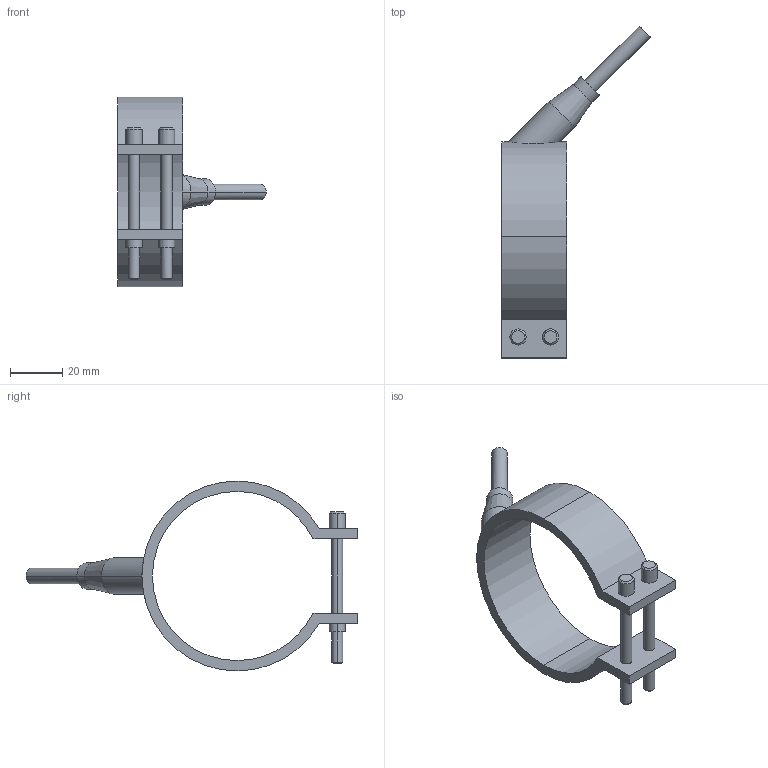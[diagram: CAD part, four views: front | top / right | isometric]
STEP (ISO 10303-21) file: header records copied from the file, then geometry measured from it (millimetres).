
FILE_DESCRIPTION(('CATIA V5 STEP Exchange'),'2;1');
FILE_NAME('C:\Users\Utente\Desktop\IO LAVORO\3D X SITO CF\X SITO\PLASTICA\RF1\29065025.stp','2021-03-27T09:51:19+00:00',('none'),('none'),'CATIA Version 5 Release 20 GA (IN-10)','CATIA V5 STEP AP203','none');
FILE_SCHEMA(('CONFIG_CONTROL_DESIGN'));
Length unit declared in the file: millimetre
Products named in the file (1): 29065025
Bounding box: 57.05 x 127.55 x 73 mm (x, y, z)
Volume: 28077 mm3; surface area: 15737 mm2
Topology: 1 solids, 1 shells, 54 faces, 126 edges, 82 vertices
Faces by surface type: cylinder 28, plane 16, cone 10
Entity records: 1746 total; most frequent: CARTESIAN_POINT 497, ORIENTED_EDGE 252, DIRECTION 214, EDGE_CURVE 126, AXIS2_PLACEMENT_3D 107, VERTEX_POINT 82, EDGE_LOOP 66, VECTOR 56
